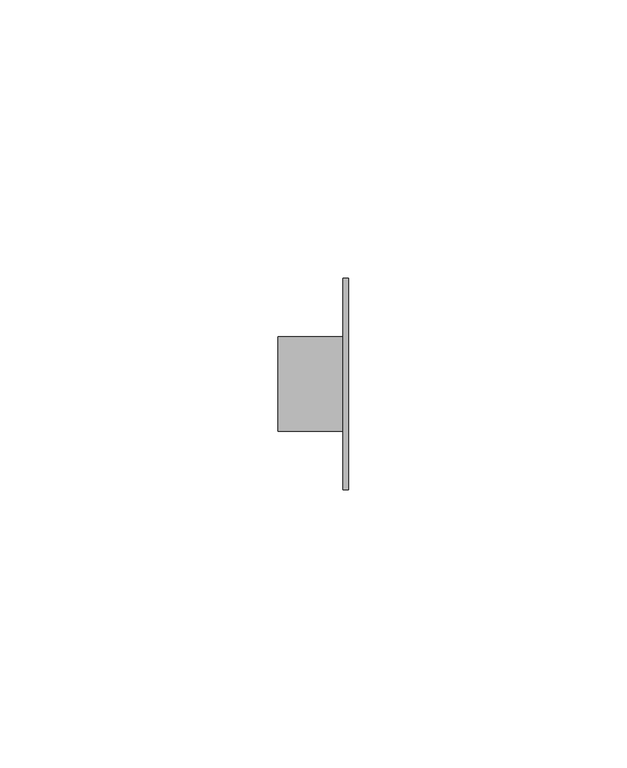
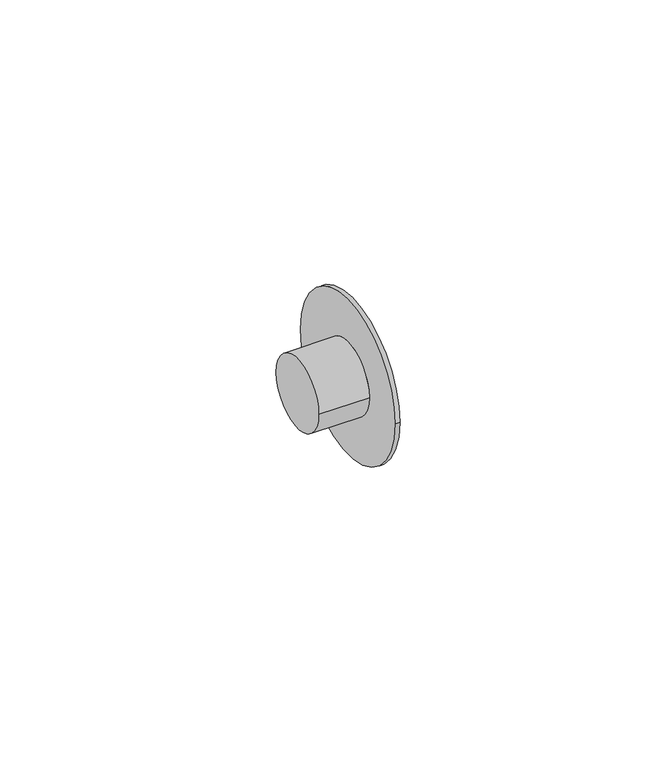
"""IFC4 building model written with IfcOpenShell, lengths in millimetres: pipe fitting geometry, Bucha de redução reta - Soldada - CU : Padrão."""

from ifc_helpers import new_model, si_unit, frame, origin, place, context, project, spatial, circle_curve, source, transform, mapped, element, save
from ifc_brep_helpers import plane_surface, cylinder_surface, advanced_brep


def pipe_fitting_08070b62(model_context):
    return source(origin(), model_context, "Body", "AdvancedBrep", [
        advanced_brep(
        [(0.0, -8.4937, 0.0), (0.0, 8.4937, 0.0), (11.6589, -8.4937, 0.0), (11.6589, 8.4937, 0.0), (12.6589, -18.95, 0.0), (12.6589, 18.95, 0.0), (11.6589, 18.95, 0.0), (11.6589, -18.95, 0.0)],
        [
            (0, 1, circle_curve(frame((0.0, 0.0, 0.0), z_axis=(-1.0, 0.0, 0.0), x_axis=(0.0, 1.0, 0.0)), 8.4937)),
            (1, 0, circle_curve(frame((0.0, 0.0, 0.0), z_axis=(-1.0, 0.0, 0.0), x_axis=(0.0, 1.0, 0.0)), 8.4937)),
            (0, 2),
            (2, 3, circle_curve(frame((11.6589, 0.0, 0.0), z_axis=(-1.0, 0.0, 0.0), x_axis=(0.0, 1.0, 0.0)), 8.4937)),
            (3, 1),
            (3, 2, circle_curve(frame((11.6589, 0.0, 0.0), z_axis=(-1.0, 0.0, 0.0), x_axis=(0.0, 1.0, 0.0)), 8.4937)),
            (4, 5, circle_curve(frame((12.6589, 0.0, 0.0), z_axis=(1.0, 0.0, 0.0), x_axis=(0.0, 1.0, 0.0)), 18.95)),
            (5, 4, circle_curve(frame((12.6589, 0.0, 0.0), z_axis=(1.0, 0.0, 0.0), x_axis=(0.0, 1.0, 0.0)), 18.95)),
            (6, 7, circle_curve(frame((11.6589, 0.0, 0.0), z_axis=(1.0, 0.0, 0.0), x_axis=(0.0, 1.0, 0.0)), 18.95)),
            (7, 4),
            (5, 6),
            (7, 6, circle_curve(frame((11.6589, 0.0, 0.0), z_axis=(1.0, 0.0, 0.0), x_axis=(0.0, 1.0, 0.0)), 18.95)),
        ],
        [
            plane_surface(frame((0.0, 0.0, 0.0), z_axis=(-1.0, 0.0, 0.0), x_axis=(0.0, 0.0, 1.0))),
            cylinder_surface(frame((0.0, 0.0, 0.0), z_axis=(-1.0, 0.0, 0.0), x_axis=(0.0, 1.0, 0.0)), 8.4937),
            plane_surface(frame((12.6589, 0.0, 0.0), z_axis=(1.0, 0.0, 0.0), x_axis=(0.0, 0.0, 1.0))),
            cylinder_surface(frame((11.6589, 0.0, 0.0), z_axis=(-1.0, 0.0, 0.0), x_axis=(0.0, 1.0, 0.0)), 18.95),
            plane_surface(frame((11.6589, 0.0, 0.0), z_axis=(-1.0, 0.0, 0.0), x_axis=(0.0, 0.0, 1.0))),
        ],
        [
            (0, [[1, 2]]),
            (1, [[-1, 3, 4, 5]]),
            (1, [[-2, -5, 6, -3]]),
            (2, [[7, 8]]),
            (3, [[9, 10, -8, 11]]),
            (3, [[12, -11, -7, -10]]),
            (4, [[-9, -12], [-4, -6]]),
        ],
    ),
    ])


if __name__ == "__main__":
    model = new_model("IFC4")
    model_context = context("Model", 3, world=origin())
    ifc_project = project(units=[si_unit("LENGTHUNIT", "METRE", prefix="MILLI")], contexts=[model_context])
    site = spatial("IfcSite", under=ifc_project)
    building = spatial("IfcBuilding", under=site)
    placement = place(None, origin())
    pipe_fitting_shape = pipe_fitting_08070b62(model_context)
    element("IfcPipeFitting", 1, ObjectType="Bucha de redução reta - Soldada - CU : Padrão", at=placement, inside=building, context=model_context, shape_type="MappedRepresentation", body=[
        mapped(pipe_fitting_shape, transform((0.0, 0.0, 0.0), x_axis=(1.0, 0.0, 0.0), y_axis=(0.0, 1.0, 0.0), z_axis=(0.0, 0.0, 1.0))),
    ])
    save(model, "model.ifc")
